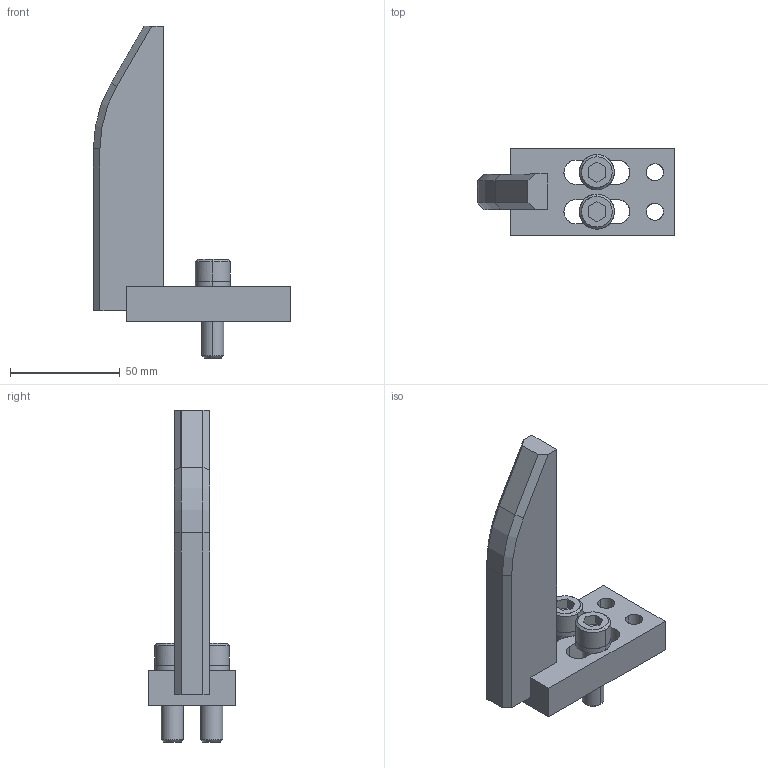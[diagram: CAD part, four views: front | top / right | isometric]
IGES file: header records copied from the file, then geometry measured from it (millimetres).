
Global section: file name: E:\UnigraphicsGraphicData\MISUMI_PRESS-PARTS\IGES\3d_ngnbc-135-40-m10_01536_r00.igs; native system: NX V5.0; preprocessor: UGS NX IGES V5.0; author: MISUMI; date: 20110105.162050; units: millimetre
Bounding box: 90 x 40 x 151.5 mm (x, y, z)
Surface area: 28990.3 mm2 (no closed solid volume)
Topology: 0 solids, 0 shells, 104 faces, 665 edges, 665 vertices
Faces by surface type: bspline 104
